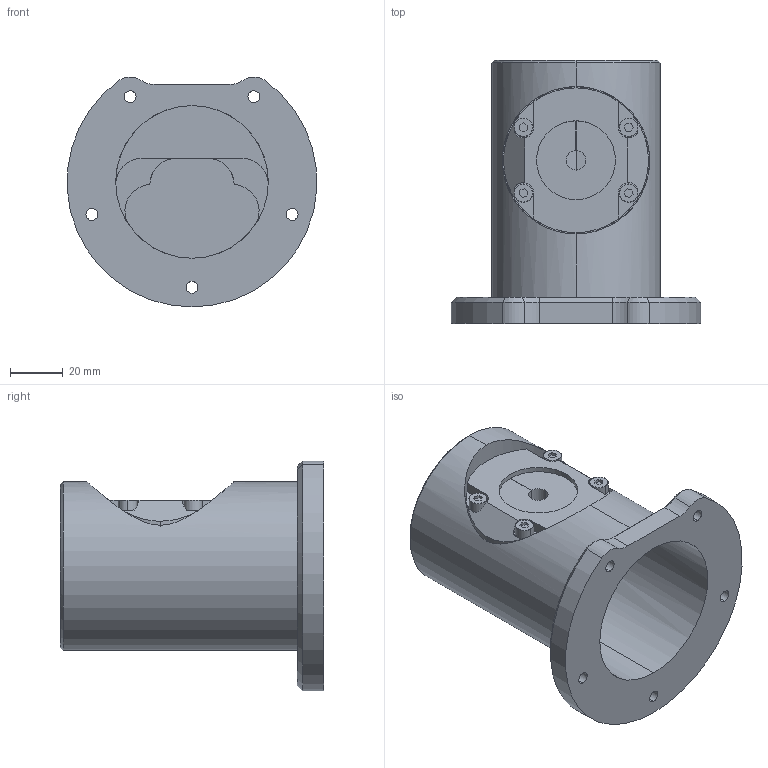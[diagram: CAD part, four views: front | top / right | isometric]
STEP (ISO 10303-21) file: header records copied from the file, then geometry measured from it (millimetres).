
FILE_DESCRIPTION (( 'STEP AP214' ), '1' );
FILE_NAME ('LD3 Water Resistant Base.STEP', '2009-03-30T15:48:29', ( 'pgr' ), ( '' ), 'SwSTEP 2.0', 'SolidWorks 2009', '' );
FILE_SCHEMA (( 'AUTOMOTIVE_DESIGN' ));
Length unit declared in the file: millimetre
Products named in the file (1): LD3 Water Resistant Base
Bounding box: 94.81 x 100 x 87.35 mm (x, y, z)
Volume: 183342 mm3; surface area: 53885.9 mm2
Topology: 1 solids, 1 shells, 184 faces, 468 edges, 296 vertices
Faces by surface type: cylinder 79, plane 72, cone 29, bspline 4
Entity records: 6545 total; most frequent: CARTESIAN_POINT 1353, DIRECTION 991, ORIENTED_EDGE 916, EDGE_CURVE 458, AXIS2_PLACEMENT_3D 380, VERTEX_POINT 296, VECTOR 231, LINE 231
